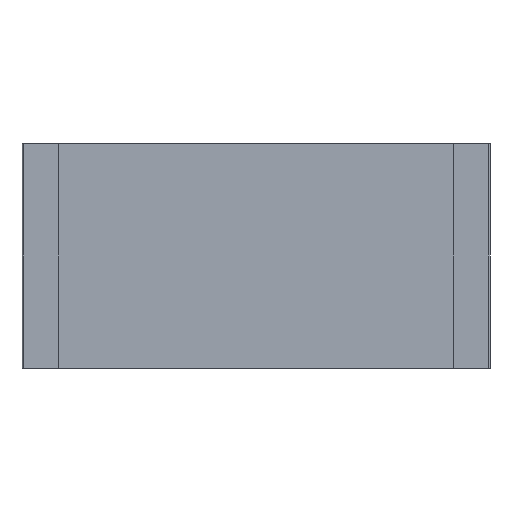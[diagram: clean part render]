
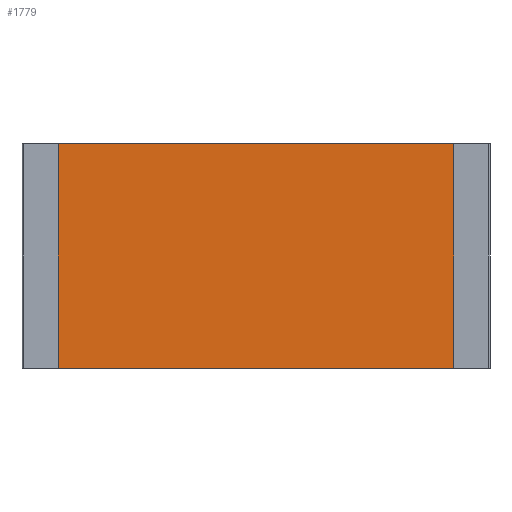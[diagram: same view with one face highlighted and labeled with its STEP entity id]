
A CAD part, front view. The second image highlights one B-rep face of the part: STEP entity #1779.
In plain terms, the highlighted planar face has unit normal (0, -1, 0).
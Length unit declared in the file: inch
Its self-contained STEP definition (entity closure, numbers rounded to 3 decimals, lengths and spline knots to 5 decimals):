
#69=FACE_OUTER_BOUND('',#167,.T.);
#167=EDGE_LOOP('',(#1178,#1179,#1180,#1181));
#265=LINE('',#2518,#497);
#270=LINE('',#2528,#502);
#271=LINE('',#2531,#503);
#272=LINE('',#2532,#504);
#497=VECTOR('',#2022,0.257);
#502=VECTOR('',#2031,0.124);
#503=VECTOR('',#2034,0.257);
#504=VECTOR('',#2035,0.124);
#726=VERTEX_POINT('',#2511);
#729=VERTEX_POINT('',#2516);
#732=VERTEX_POINT('',#2526);
#733=VERTEX_POINT('',#2530);
#905=EDGE_CURVE('',#729,#726,#265,.T.);
#910=EDGE_CURVE('',#729,#732,#270,.T.);
#911=EDGE_CURVE('',#733,#732,#271,.T.);
#912=EDGE_CURVE('',#726,#733,#272,.T.);
#1178=ORIENTED_EDGE('',*,*,#910,.T.);
#1179=ORIENTED_EDGE('',*,*,#911,.F.);
#1180=ORIENTED_EDGE('',*,*,#912,.F.);
#1181=ORIENTED_EDGE('',*,*,#905,.F.);
#1697=PLANE('',#1888);
#1779=ADVANCED_FACE('',(#69),#1697,.T.);
#1888=AXIS2_PLACEMENT_3D('',#2529,#2032,#2033);
#2022=DIRECTION('',(-1.,0.,0.));
#2031=DIRECTION('',(0.,0.,1.));
#2032=DIRECTION('center_axis',(0.,-1.,0.));
#2033=DIRECTION('ref_axis',(1.,0.,0.));
#2034=DIRECTION('',(1.,0.,0.));
#2035=DIRECTION('',(0.,0.,1.));
#2511=CARTESIAN_POINT('',(-0.1285,0.001,-0.062));
#2516=CARTESIAN_POINT('',(0.1285,0.001,-0.062));
#2518=CARTESIAN_POINT('',(-0.1285,0.001,-0.062));
#2526=CARTESIAN_POINT('',(0.1285,0.001,0.062));
#2528=CARTESIAN_POINT('',(0.1285,0.001,0.));
#2529=CARTESIAN_POINT('Origin',(-0.1285,0.001,0.));
#2530=CARTESIAN_POINT('',(-0.1285,0.001,0.062));
#2531=CARTESIAN_POINT('',(-0.1285,0.001,0.062));
#2532=CARTESIAN_POINT('',(-0.1285,0.001,0.));
